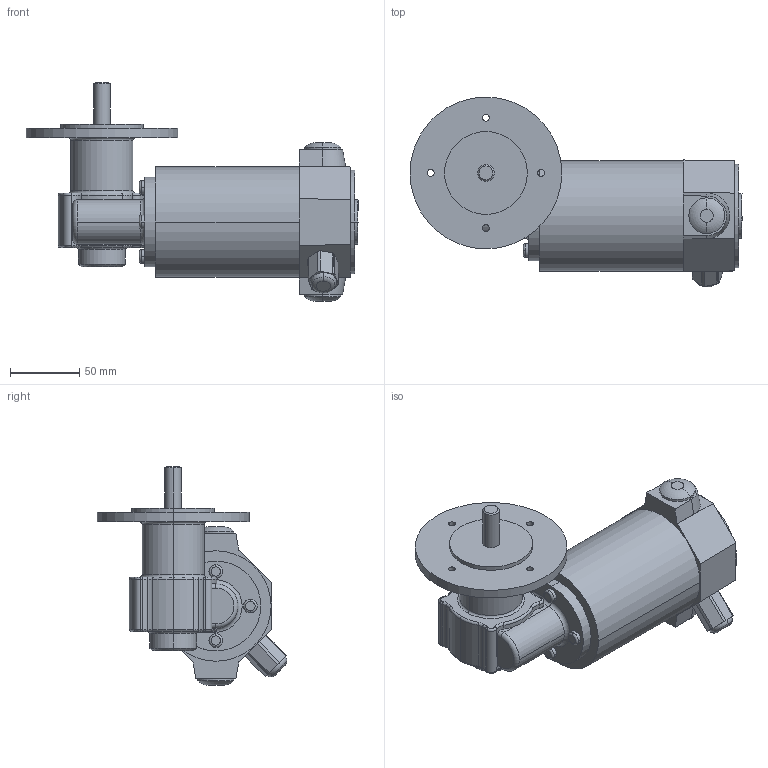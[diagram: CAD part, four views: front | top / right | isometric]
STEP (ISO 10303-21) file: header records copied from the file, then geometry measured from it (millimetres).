
FILE_DESCRIPTION(('OneSpaceDesigner STEP Export'),'2;1');
FILE_NAME('EPG12_GF12.stp','2008-07-02T13:20:24',(''),(''),'OneSpace Designer STEP processor (Jan. 2003) for AP214(CD)(Solid Model)','OneSpace Designer 12.01D 09-Jul-2004 (C) CoCreate Software GmbH','');
FILE_SCHEMA(('AUTOMOTIVE_DESIGN_CC2 {1 2 10303 214 -1 1 5 1}'));
Length unit declared in the file: millimetre
Products named in the file (2): EPG12_GF12
Assembly tree (1 placements, depth 2):
  EPG12_GF12
    EPG12_GF12
Bounding box: 240.5 x 137.39 x 158.5 mm (x, y, z)
Volume: 1111336.4 mm3; surface area: 95572.6 mm2
Topology: 1 solids, 1 shells, 212 faces, 510 edges, 316 vertices
Faces by surface type: cylinder 85, torus 74, plane 47, cone 4, bspline 2
Entity records: 8366 total; most frequent: CARTESIAN_POINT 3832, ORIENTED_EDGE 1020, DIRECTION 849, EDGE_CURVE 510, AXIS2_PLACEMENT_3D 350, VERTEX_POINT 316, EDGE_LOOP 236, CIRCLE 215
